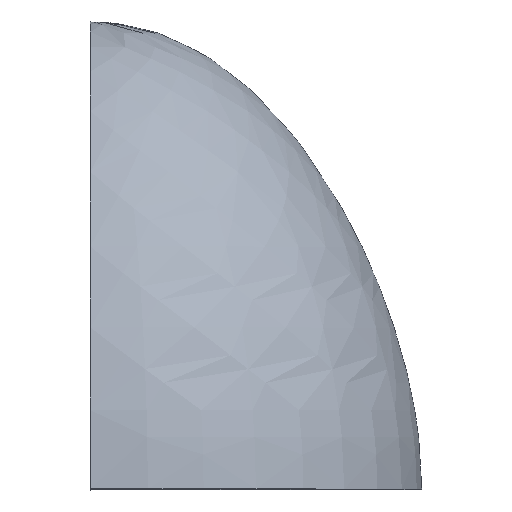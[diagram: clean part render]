
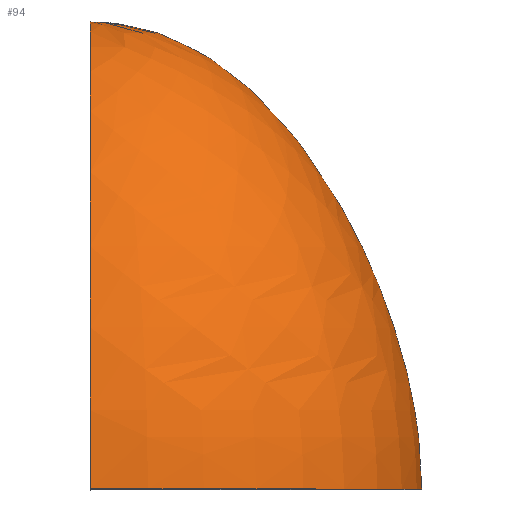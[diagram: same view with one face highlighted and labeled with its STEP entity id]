
A CAD part, top view. The second image highlights one B-rep face of the part: STEP entity #94.
In plain terms, the highlighted face is a revolution surface.
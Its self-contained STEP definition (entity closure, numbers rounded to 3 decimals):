
#52=CARTESIAN_POINT('Control Point',(0.,0.,83.)) ;
#53=CARTESIAN_POINT('Control Point',(0.,28.69,83.)) ;
#54=CARTESIAN_POINT('Control Point',(0.,61.526,73.009)) ;
#55=CARTESIAN_POINT('Control Point',(0.,98.509,53.026)) ;
#56=CARTESIAN_POINT('Control Point',(0.,117.,28.69)) ;
#57=CARTESIAN_POINT('Control Point',(0.,117.,0.)) ;
#58=CARTESIAN_POINT('Axis1P Location',(0.,0.,0.)) ;
#63=CARTESIAN_POINT('Control Point',(0.,0.,-83.)) ;
#64=CARTESIAN_POINT('Control Point',(0.,28.69,-83.)) ;
#65=CARTESIAN_POINT('Control Point',(0.,61.526,-73.009)) ;
#66=CARTESIAN_POINT('Control Point',(0.,98.509,-53.026)) ;
#67=CARTESIAN_POINT('Control Point',(0.,117.,-28.69)) ;
#68=CARTESIAN_POINT('Control Point',(0.,117.,0.)) ;
#69=CARTESIAN_POINT('Vertex',(0.,0.,-83.)) ;
#71=CARTESIAN_POINT('Vertex',(0.,117.,0.)) ;
#75=CARTESIAN_POINT('Control Point',(0.,0.,83.)) ;
#76=CARTESIAN_POINT('Control Point',(0.,28.69,83.)) ;
#77=CARTESIAN_POINT('Control Point',(0.,61.526,73.009)) ;
#78=CARTESIAN_POINT('Control Point',(0.,98.509,53.026)) ;
#79=CARTESIAN_POINT('Control Point',(0.,117.,28.69)) ;
#80=CARTESIAN_POINT('Control Point',(0.,117.,0.)) ;
#81=CARTESIAN_POINT('Vertex',(0.,0.,83.)) ;
#84=CARTESIAN_POINT('Axis2P3D Location',(0.,0.,0.)) ;
#59=DIRECTION('Axis1P Direction',(0.,1.,0.)) ;
#85=DIRECTION('Axis2P3D Direction',(0.,1.,0.)) ;
#86=AXIS2_PLACEMENT_3D('Circle Axis2P3D',#84,#85,$) ;
#90=ORIENTED_EDGE('',*,*,#73,.T.) ;
#91=ORIENTED_EDGE('',*,*,#83,.F.) ;
#92=ORIENTED_EDGE('',*,*,#88,.T.) ;
#94=ADVANCED_FACE('PartBody',(#93),#61,.T.) ;
#60=AXIS1_PLACEMENT('Revolution Surface Axis1P',#58,#59) ;
#51=B_SPLINE_CURVE_WITH_KNOTS('',5,(#52,#53,#54,#55,#56,#57),.UNSPECIFIED.,.F.,.U.,(6,6),(0.,143.45),.UNSPECIFIED.) ;
#62=B_SPLINE_CURVE_WITH_KNOTS('',5,(#63,#64,#65,#66,#67,#68),.UNSPECIFIED.,.F.,.U.,(6,6),(0.,143.45),.UNSPECIFIED.) ;
#74=B_SPLINE_CURVE_WITH_KNOTS('',5,(#75,#76,#77,#78,#79,#80),.UNSPECIFIED.,.F.,.U.,(6,6),(0.,143.45),.UNSPECIFIED.) ;
#87=CIRCLE('generated circle',#86,83.) ;
#73=EDGE_CURVE('',#70,#72,#62,.T.) ;
#83=EDGE_CURVE('',#82,#72,#74,.T.) ;
#88=EDGE_CURVE('',#82,#70,#87,.T.) ;
#89=EDGE_LOOP('',(#90,#91,#92)) ;
#93=FACE_OUTER_BOUND('',#89,.T.) ;
#61=SURFACE_OF_REVOLUTION('Surface of Revolution',#51,#60) ;
#70=VERTEX_POINT('',#69) ;
#72=VERTEX_POINT('',#71) ;
#82=VERTEX_POINT('',#81) ;
